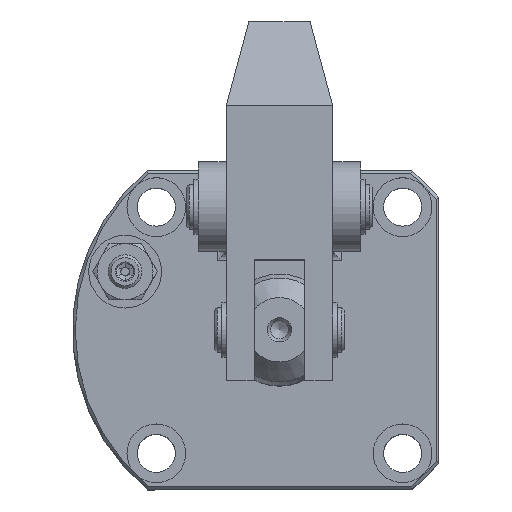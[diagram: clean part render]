
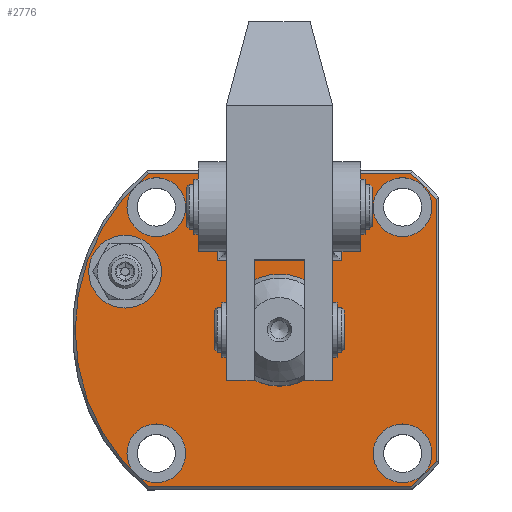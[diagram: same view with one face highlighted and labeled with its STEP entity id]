
A CAD part, top view. The second image highlights one B-rep face of the part: STEP entity #2776.
In plain terms, the highlighted planar face has unit normal (0, 0, 1).
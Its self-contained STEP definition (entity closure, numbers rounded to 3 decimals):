
#134=CIRCLE('',#3060,36.5);
#135=CIRCLE('',#3061,36.5);
#136=CIRCLE('',#3062,36.5);
#137=CIRCLE('',#3063,6.5);
#138=CIRCLE('',#3064,10.);
#139=CIRCLE('',#3065,5.25);
#140=CIRCLE('',#3066,5.25);
#141=CIRCLE('',#3067,5.25);
#142=CIRCLE('',#3068,5.25);
#359=PLANE('',#3059);
#446=LINE('',#4270,#581);
#469=LINE('',#4326,#604);
#470=LINE('',#4329,#605);
#471=LINE('',#4331,#606);
#472=LINE('',#4333,#607);
#473=LINE('',#4336,#608);
#474=LINE('',#4340,#609);
#581=VECTOR('',#3422,1000.);
#604=VECTOR('',#3467,1000.);
#605=VECTOR('',#3468,1000.);
#606=VECTOR('',#3469,1000.);
#607=VECTOR('',#3470,1000.);
#608=VECTOR('',#3473,1000.);
#609=VECTOR('',#3476,1000.);
#765=ORIENTED_EDGE('',*,*,#1476,.T.);
#766=ORIENTED_EDGE('',*,*,#1477,.T.);
#767=ORIENTED_EDGE('',*,*,#1478,.T.);
#768=ORIENTED_EDGE('',*,*,#1479,.T.);
#769=ORIENTED_EDGE('',*,*,#1450,.T.);
#770=ORIENTED_EDGE('',*,*,#1480,.T.);
#771=ORIENTED_EDGE('',*,*,#1481,.T.);
#772=ORIENTED_EDGE('',*,*,#1482,.T.);
#773=ORIENTED_EDGE('',*,*,#1483,.T.);
#774=ORIENTED_EDGE('',*,*,#1484,.T.);
#775=ORIENTED_EDGE('',*,*,#1485,.T.);
#776=ORIENTED_EDGE('',*,*,#1486,.T.);
#777=ORIENTED_EDGE('',*,*,#1487,.F.);
#778=ORIENTED_EDGE('',*,*,#1488,.F.);
#779=ORIENTED_EDGE('',*,*,#1489,.F.);
#780=ORIENTED_EDGE('',*,*,#1490,.F.);
#1450=EDGE_CURVE('',#1814,#1815,#446,.T.);
#1476=EDGE_CURVE('',#1832,#1833,#469,.T.);
#1477=EDGE_CURVE('',#1833,#1834,#470,.F.);
#1478=EDGE_CURVE('',#1834,#1835,#471,.F.);
#1479=EDGE_CURVE('',#1835,#1814,#472,.F.);
#1480=EDGE_CURVE('',#1815,#1836,#134,.T.);
#1481=EDGE_CURVE('',#1836,#1837,#473,.T.);
#1482=EDGE_CURVE('',#1837,#1838,#135,.T.);
#1483=EDGE_CURVE('',#1838,#1839,#474,.T.);
#1484=EDGE_CURVE('',#1839,#1832,#136,.T.);
#1485=EDGE_CURVE('',#1840,#1840,#137,.F.);
#1486=EDGE_CURVE('',#1841,#1841,#138,.T.);
#1487=EDGE_CURVE('',#1842,#1842,#139,.T.);
#1488=EDGE_CURVE('',#1843,#1843,#140,.T.);
#1489=EDGE_CURVE('',#1844,#1844,#141,.T.);
#1490=EDGE_CURVE('',#1845,#1845,#142,.T.);
#1814=VERTEX_POINT('',#4271);
#1815=VERTEX_POINT('',#4272);
#1832=VERTEX_POINT('',#4327);
#1833=VERTEX_POINT('',#4328);
#1834=VERTEX_POINT('',#4330);
#1835=VERTEX_POINT('',#4332);
#1836=VERTEX_POINT('',#4335);
#1837=VERTEX_POINT('',#4337);
#1838=VERTEX_POINT('',#4339);
#1839=VERTEX_POINT('',#4341);
#1840=VERTEX_POINT('',#4344);
#1841=VERTEX_POINT('',#4346);
#1842=VERTEX_POINT('',#4348);
#1843=VERTEX_POINT('',#4350);
#1844=VERTEX_POINT('',#4352);
#1845=VERTEX_POINT('',#4354);
#2098=EDGE_LOOP('',(#765,#766,#767,#768,#769,#770,#771,#772,#773,#774));
#2099=EDGE_LOOP('',(#775));
#2100=EDGE_LOOP('',(#776));
#2101=EDGE_LOOP('',(#777));
#2102=EDGE_LOOP('',(#778));
#2103=EDGE_LOOP('',(#779));
#2104=EDGE_LOOP('',(#780));
#2405=FACE_BOUND('',#2098,.T.);
#2406=FACE_BOUND('',#2099,.T.);
#2407=FACE_BOUND('',#2100,.T.);
#2408=FACE_BOUND('',#2101,.T.);
#2409=FACE_BOUND('',#2102,.T.);
#2410=FACE_BOUND('',#2103,.T.);
#2411=FACE_BOUND('',#2104,.T.);
#2776=ADVANCED_FACE('',(#2405,#2406,#2407,#2408,#2409,#2410,#2411),#359,
 .T.);
#3059=AXIS2_PLACEMENT_3D('',#4325,#3465,#3466);
#3060=AXIS2_PLACEMENT_3D('',#4334,#3471,#3472);
#3061=AXIS2_PLACEMENT_3D('',#4338,#3474,#3475);
#3062=AXIS2_PLACEMENT_3D('',#4342,#3477,#3478);
#3063=AXIS2_PLACEMENT_3D('',#4343,#3479,#3480);
#3064=AXIS2_PLACEMENT_3D('',#4345,#3481,#3482);
#3065=AXIS2_PLACEMENT_3D('',#4347,#3483,#3484);
#3066=AXIS2_PLACEMENT_3D('',#4349,#3485,#3486);
#3067=AXIS2_PLACEMENT_3D('',#4351,#3487,#3488);
#3068=AXIS2_PLACEMENT_3D('',#4353,#3489,#3490);
#3422=DIRECTION('',(-1.,0.,0.));
#3465=DIRECTION('',(0.,0.,1.));
#3466=DIRECTION('',(0.,-1.,0.));
#3467=DIRECTION('',(-1.,0.,0.));
#3468=DIRECTION('',(0.,1.,0.));
#3469=DIRECTION('',(1.,0.,0.));
#3470=DIRECTION('',(0.,-1.,0.));
#3471=DIRECTION('',(0.,0.,1.));
#3472=DIRECTION('',(0.,-1.,0.));
#3473=DIRECTION('',(1.,0.,0.));
#3474=DIRECTION('',(0.,0.,1.));
#3475=DIRECTION('',(0.,-1.,0.));
#3476=DIRECTION('',(0.,1.,0.));
#3477=DIRECTION('',(0.,0.,1.));
#3478=DIRECTION('',(0.,-1.,0.));
#3479=DIRECTION('',(0.,0.,1.));
#3480=DIRECTION('',(0.,-1.,0.));
#3481=DIRECTION('',(0.,0.,-1.));
#3482=DIRECTION('',(0.,-1.,0.));
#3483=DIRECTION('',(0.,0.,1.));
#3484=DIRECTION('',(1.,0.,0.));
#3485=DIRECTION('',(0.,0.,1.));
#3486=DIRECTION('',(1.,0.,0.));
#3487=DIRECTION('',(0.,0.,1.));
#3488=DIRECTION('',(1.,0.,0.));
#3489=DIRECTION('',(0.,0.,1.));
#3490=DIRECTION('',(1.,0.,0.));
#4270=CARTESIAN_POINT('',(-9.,58.5,19.5));
#4271=CARTESIAN_POINT('',(-20.,58.5,19.5));
#4272=CARTESIAN_POINT('',(-32.415,58.5,19.5));
#4325=CARTESIAN_POINT('',(-9.,30.5,19.5));
#4326=CARTESIAN_POINT('',(-9.,58.5,19.5));
#4327=CARTESIAN_POINT('',(14.415,58.5,19.5));
#4328=CARTESIAN_POINT('',(2.,58.5,19.5));
#4329=CARTESIAN_POINT('',(2.,44.5,19.5));
#4330=CARTESIAN_POINT('',(2.,43.,19.5));
#4331=CARTESIAN_POINT('',(-9.,43.,19.5));
#4332=CARTESIAN_POINT('',(-20.,43.,19.5));
#4333=CARTESIAN_POINT('',(-20.,30.5,19.5));
#4334=CARTESIAN_POINT('',(-9.,30.5,19.5));
#4335=CARTESIAN_POINT('',(-32.415,2.5,19.5));
#4336=CARTESIAN_POINT('',(-9.,2.5,19.5));
#4337=CARTESIAN_POINT('',(14.415,2.5,19.5));
#4338=CARTESIAN_POINT('',(-9.,30.5,19.5));
#4339=CARTESIAN_POINT('',(19.,7.085,19.5));
#4340=CARTESIAN_POINT('',(19.,30.5,19.5));
#4341=CARTESIAN_POINT('',(19.,53.915,19.5));
#4342=CARTESIAN_POINT('',(-9.,30.5,19.5));
#4343=CARTESIAN_POINT('',(-36.58,40.96,19.5));
#4344=CARTESIAN_POINT('',(-36.58,34.46,19.5));
#4345=CARTESIAN_POINT('',(-9.,30.5,19.5));
#4346=CARTESIAN_POINT('',(-9.,20.5,19.5));
#4347=CARTESIAN_POINT('',(13.,52.5,19.5));
#4348=CARTESIAN_POINT('',(18.25,52.5,19.5));
#4349=CARTESIAN_POINT('',(13.,8.5,19.5));
#4350=CARTESIAN_POINT('',(18.25,8.5,19.5));
#4351=CARTESIAN_POINT('',(-31.,8.5,19.5));
#4352=CARTESIAN_POINT('',(-25.75,8.5,19.5));
#4353=CARTESIAN_POINT('',(-31.,52.5,19.5));
#4354=CARTESIAN_POINT('',(-25.75,52.5,19.5));
